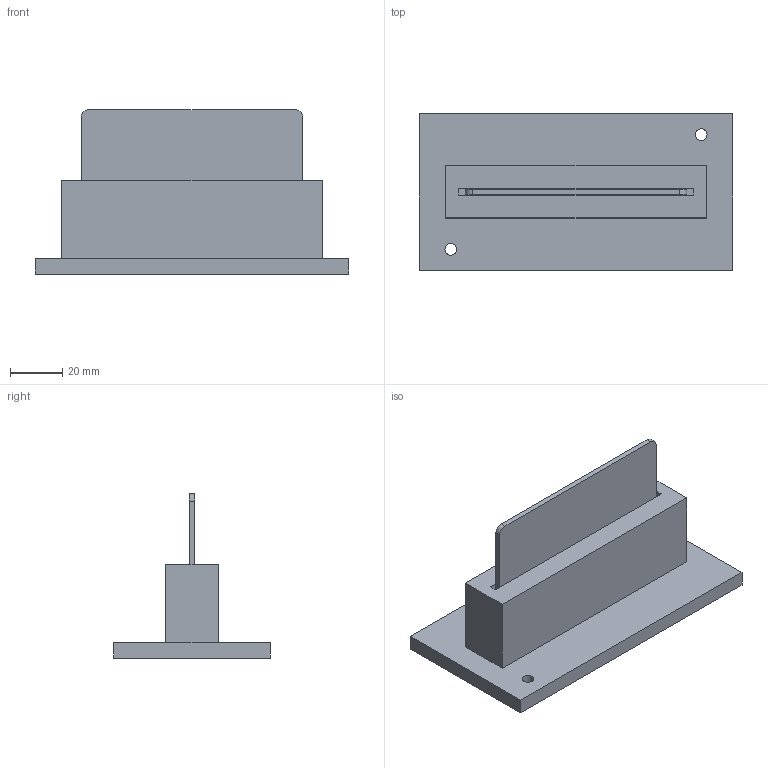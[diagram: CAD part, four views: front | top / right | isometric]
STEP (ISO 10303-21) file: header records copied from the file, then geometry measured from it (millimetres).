
FILE_DESCRIPTION(('Open CASCADE Model'),'2;1');
FILE_NAME('Open CASCADE Shape Model','2026-10-21T17:23:57',('Author'),( 'Open CASCADE'),'Open CASCADE STEP processor 7.9','Open CASCADE 7.9' ,'Unknown');
FILE_SCHEMA(('AUTOMOTIVE_DESIGN { 1 0 10303 214 1 1 1 1 }'));
Length unit declared in the file: millimetre
Products named in the file (3): B33_illustrative; card_slot_t2_0; card_t2_1
Assembly tree (2 placements, depth 2):
  B33_illustrative
    card_slot_t2_0
    card_t2_1
Bounding box: 120 x 60 x 63 mm (x, y, z)
Volume: 105855.7 mm3; surface area: 38576.7 mm2
Topology: 2 solids, 2 shells, 28 faces, 66 edges, 44 vertices
Faces by surface type: plane 22, cylinder 6
Full cylindrical faces by diameter (mm): 4.5 x2
Entity records: 1754 total; most frequent: CARTESIAN_POINT 321, DIRECTION 264, LINE 174, VECTOR 174, ORIENTED_EDGE 132, PCURVE 132, DEFINITIONAL_REPRESENTATION 132, EDGE_CURVE 66
